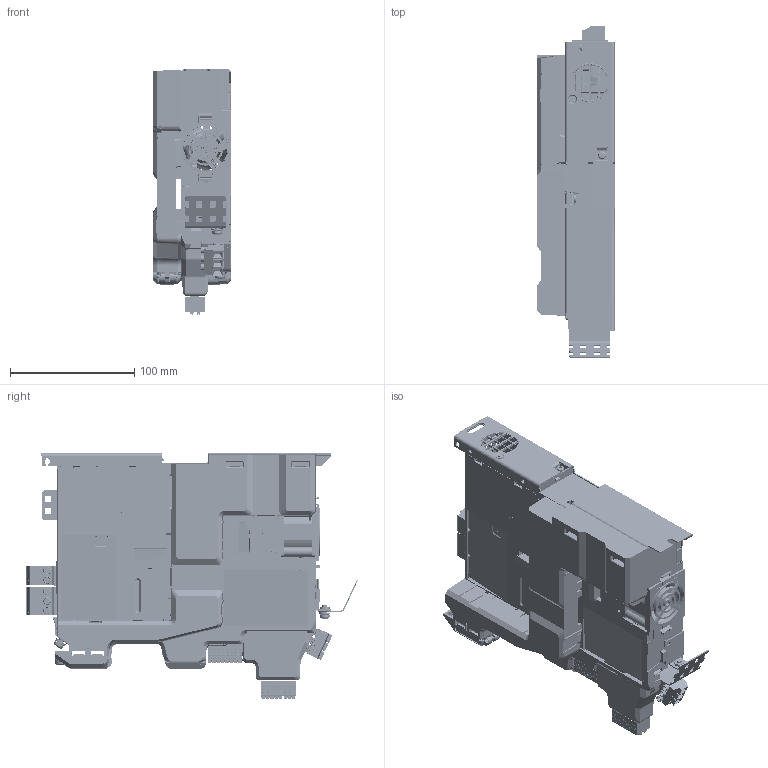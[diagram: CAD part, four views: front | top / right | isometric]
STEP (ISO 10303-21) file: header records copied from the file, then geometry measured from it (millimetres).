
FILE_DESCRIPTION((''),'2;1');
FILE_NAME('RR_FR01_WITH_ACC','2017-09-07T',('spatil4'),(''),'PRO/ENGINEER BY PARAMETRIC TECHNOLOGY CORPORATION, 2011490','PRO/ENGINEER BY PARAMETRIC TECHNOLOGY CORPORATION, 2011490','');
FILE_SCHEMA(('STRUCTURAL_ANALYSIS_DESIGN'));
Products named in the file (1): RR_FR01_WITH_ACC
Bounding box: 62.45 x 267.64 x 197.91 mm (x, y, z)
Surface area: 521982.9 mm2 (no closed solid volume)
Topology: 0 solids, 732 shells, 7673 faces, 40577 edges, 32404 vertices
Faces by surface type: plane 4739, cylinder 2075, cone 333, bspline 303, torus 195, sphere 21, extrusion 7
Entity records: 431722 total; most frequent: CARTESIAN_POINT 138668, ORIENTED_EDGE 54001, DIRECTION 53392, EDGE_CURVE 40572, VERTEX_POINT 32404, VECTOR 25916, LINE 25909, AXIS2_PLACEMENT_3D 13738
